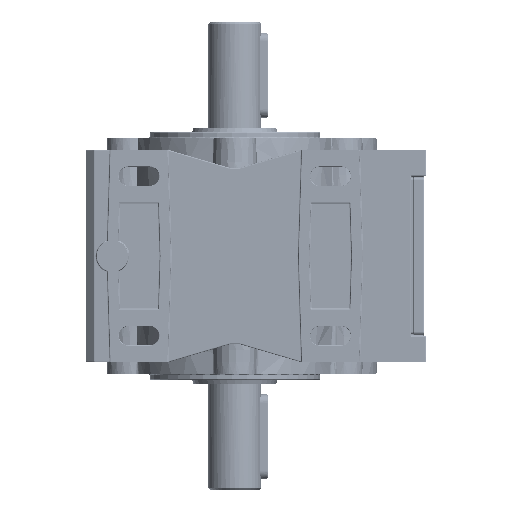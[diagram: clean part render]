
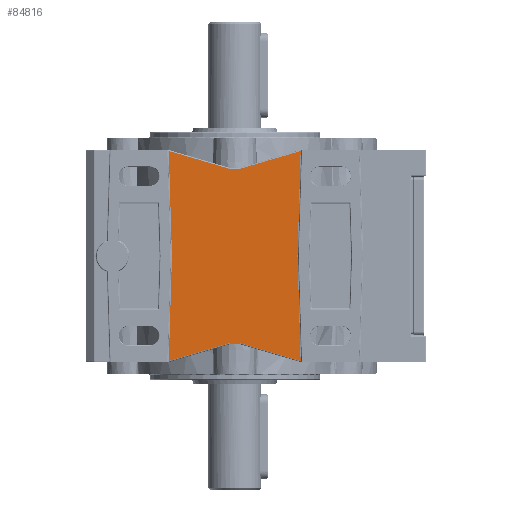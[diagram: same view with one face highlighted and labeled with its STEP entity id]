
A CAD part, left-side view. The second image highlights one B-rep face of the part: STEP entity #84816.
In plain terms, the highlighted planar face has unit normal (-1, 0, 0).
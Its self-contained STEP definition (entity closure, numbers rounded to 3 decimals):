
#79083=CARTESIAN_POINT('',(-69.0,-2.778,-62.561));
#79084=VERTEX_POINT('',#79083);
#79102=CARTESIAN_POINT('',(-69.0,-30.98,-70.826));
#79103=VERTEX_POINT('',#79102);
#79111=CARTESIAN_POINT('',(-69.0,-30.98,-70.826));
#79112=DIRECTION('',(0.0,0.96,0.281));
#79113=VECTOR('',#79112,29.388);
#79114=LINE('',#79111,#79113);
#79115=EDGE_CURVE('',#79103,#79084,#79114,.T.);
#79125=CARTESIAN_POINT('',(-69.0,-2.356,-62.5));
#79126=VERTEX_POINT('',#79125);
#79144=CARTESIAN_POINT('',(-69.0,-2.356,-64.));
#79145=DIRECTION('',(-1.0,0.,0.));
#79146=DIRECTION('',(0.,-0.142,0.99));
#79147=AXIS2_PLACEMENT_3D('',#79144,#79145,#79146);
#79148=CIRCLE('',#79147,1.5);
#79149=EDGE_CURVE('',#79084,#79126,#79148,.T.);
#79159=CARTESIAN_POINT('',(-69.0,2.356,-62.5));
#79160=VERTEX_POINT('',#79159);
#79177=CARTESIAN_POINT('',(-69.0,-2.356,-62.5));
#79178=DIRECTION('',(0.0,1.0,0.0));
#79179=VECTOR('',#79178,4.713);
#79180=LINE('',#79177,#79179);
#79181=EDGE_CURVE('',#79126,#79160,#79180,.T.);
#79191=CARTESIAN_POINT('',(-69.0,2.778,-62.561));
#79192=VERTEX_POINT('',#79191);
#79210=CARTESIAN_POINT('',(-69.0,2.356,-64.));
#79211=DIRECTION('',(-1.0,0.,0.));
#79212=DIRECTION('',(0.,0.142,0.99));
#79213=AXIS2_PLACEMENT_3D('',#79210,#79211,#79212);
#79214=CIRCLE('',#79213,1.5);
#79215=EDGE_CURVE('',#79160,#79192,#79214,.T.);
#79225=CARTESIAN_POINT('',(-69.,30.98,-70.826));
#79226=VERTEX_POINT('',#79225);
#79243=CARTESIAN_POINT('',(-69.0,2.778,-62.561));
#79244=DIRECTION('',(0.,0.96,-0.281));
#79245=VECTOR('',#79244,29.388);
#79246=LINE('',#79243,#79245);
#79247=EDGE_CURVE('',#79192,#79226,#79246,.T.);
#79536=CARTESIAN_POINT('',(-69.0,-29.501,-21.53));
#79537=VERTEX_POINT('',#79536);
#79545=CARTESIAN_POINT('',(-69.0,-29.501,-21.53));
#79546=DIRECTION('',(0.0,-0.03,-1.));
#79547=VECTOR('',#79546,49.319);
#79548=LINE('',#79545,#79547);
#79549=EDGE_CURVE('',#79537,#79103,#79548,.T.);
#79940=CARTESIAN_POINT('',(-69.0,2.778,19.561));
#79941=VERTEX_POINT('',#79940);
#79959=CARTESIAN_POINT('',(-69.,30.98,27.826));
#79960=VERTEX_POINT('',#79959);
#79968=CARTESIAN_POINT('',(-69.,30.98,27.826));
#79969=DIRECTION('',(0.,-0.96,-0.281));
#79970=VECTOR('',#79969,29.388);
#79971=LINE('',#79968,#79970);
#79972=EDGE_CURVE('',#79960,#79941,#79971,.T.);
#79982=CARTESIAN_POINT('',(-69.0,2.356,19.5));
#79983=VERTEX_POINT('',#79982);
#80001=CARTESIAN_POINT('',(-69.0,2.356,21.0));
#80002=DIRECTION('',(-1.0,0.,0.));
#80003=DIRECTION('',(0.,0.142,-0.99));
#80004=AXIS2_PLACEMENT_3D('',#80001,#80002,#80003);
#80005=CIRCLE('',#80004,1.5);
#80006=EDGE_CURVE('',#79941,#79983,#80005,.T.);
#80016=CARTESIAN_POINT('',(-69.0,-2.356,19.5));
#80017=VERTEX_POINT('',#80016);
#80034=CARTESIAN_POINT('',(-69.0,2.356,19.5));
#80035=DIRECTION('',(0.0,-1.0,0.0));
#80036=VECTOR('',#80035,4.713);
#80037=LINE('',#80034,#80036);
#80038=EDGE_CURVE('',#79983,#80017,#80037,.T.);
#80048=CARTESIAN_POINT('',(-69.0,-2.778,19.561));
#80049=VERTEX_POINT('',#80048);
#80067=CARTESIAN_POINT('',(-69.0,-2.356,21.0));
#80068=DIRECTION('',(-1.0,0.,0.));
#80069=DIRECTION('',(0.,-0.142,-0.99));
#80070=AXIS2_PLACEMENT_3D('',#80067,#80068,#80069);
#80071=CIRCLE('',#80070,1.5);
#80072=EDGE_CURVE('',#80017,#80049,#80071,.T.);
#80082=CARTESIAN_POINT('',(-69.0,-30.98,27.826));
#80083=VERTEX_POINT('',#80082);
#80100=CARTESIAN_POINT('',(-69.0,-2.778,19.561));
#80101=DIRECTION('',(0.0,-0.96,0.281));
#80102=VECTOR('',#80101,29.388);
#80103=LINE('',#80100,#80102);
#80104=EDGE_CURVE('',#80049,#80083,#80103,.T.);
#82797=CARTESIAN_POINT('',(-69.,29.5,-21.479));
#82798=VERTEX_POINT('',#82797);
#82806=CARTESIAN_POINT('',(-69.,29.5,-21.479));
#82807=DIRECTION('',(0.0,0.03,1.));
#82808=VECTOR('',#82807,49.328);
#82809=LINE('',#82806,#82808);
#82810=EDGE_CURVE('',#82798,#79960,#82809,.T.);
#82820=CARTESIAN_POINT('',(-69.,29.5,-21.521));
#82821=VERTEX_POINT('',#82820);
#82829=CARTESIAN_POINT('',(-69.,30.2,-21.5));
#82830=DIRECTION('',(-1.0,0.0,0.0));
#82831=DIRECTION('',(0.0,-1.0,0.0));
#82832=AXIS2_PLACEMENT_3D('',#82829,#82830,#82831);
#82833=CIRCLE('',#82832,0.7);
#82834=EDGE_CURVE('',#82821,#82798,#82833,.T.);
#82847=CARTESIAN_POINT('',(-69.,30.98,-70.826));
#82848=DIRECTION('',(0.0,-0.03,1.));
#82849=VECTOR('',#82848,49.328);
#82850=LINE('',#82847,#82849);
#82851=EDGE_CURVE('',#79226,#82821,#82850,.T.);
#84755=CARTESIAN_POINT('',(-69.0,-29.501,-21.47));
#84756=VERTEX_POINT('',#84755);
#84764=CARTESIAN_POINT('',(-69.0,-30.5,-21.5));
#84765=DIRECTION('',(-1.0,0.0,0.0));
#84766=DIRECTION('',(0.0,1.0,0.0));
#84767=AXIS2_PLACEMENT_3D('',#84764,#84765,#84766);
#84768=CIRCLE('',#84767,1.0);
#84769=EDGE_CURVE('',#84756,#79537,#84768,.T.);
#84782=CARTESIAN_POINT('',(-69.0,-30.98,27.826));
#84783=DIRECTION('',(0.0,0.03,-1.));
#84784=VECTOR('',#84783,49.319);
#84785=LINE('',#84782,#84784);
#84786=EDGE_CURVE('',#80083,#84756,#84785,.T.);
#84793=CARTESIAN_POINT('',(-69.0,0.,3.836));
#84794=DIRECTION('',(1.0,0.0,0.0));
#84795=DIRECTION('',(0.0,0.0,-1.0));
#84796=AXIS2_PLACEMENT_3D('',#84793,#84794,#84795);
#84797=PLANE('',#84796);
#84798=ORIENTED_EDGE('',*,*,#79115,.F.);
#84799=ORIENTED_EDGE('',*,*,#79549,.F.);
#84800=ORIENTED_EDGE('',*,*,#84769,.F.);
#84801=ORIENTED_EDGE('',*,*,#84786,.F.);
#84802=ORIENTED_EDGE('',*,*,#80104,.F.);
#84803=ORIENTED_EDGE('',*,*,#80072,.F.);
#84804=ORIENTED_EDGE('',*,*,#80038,.F.);
#84805=ORIENTED_EDGE('',*,*,#80006,.F.);
#84806=ORIENTED_EDGE('',*,*,#79972,.F.);
#84807=ORIENTED_EDGE('',*,*,#82810,.F.);
#84808=ORIENTED_EDGE('',*,*,#82834,.F.);
#84809=ORIENTED_EDGE('',*,*,#82851,.F.);
#84810=ORIENTED_EDGE('',*,*,#79247,.F.);
#84811=ORIENTED_EDGE('',*,*,#79215,.F.);
#84812=ORIENTED_EDGE('',*,*,#79181,.F.);
#84813=ORIENTED_EDGE('',*,*,#79149,.F.);
#84814=EDGE_LOOP('',(#84798,#84799,#84800,#84801,#84802,#84803,#84804,#84805,#84806,#84807,#84808,#84809,#84810,#84811,#84812,#84813));
#84815=FACE_OUTER_BOUND('',#84814,.T.);
#84816=ADVANCED_FACE('',(#84815),#84797,.F.);
